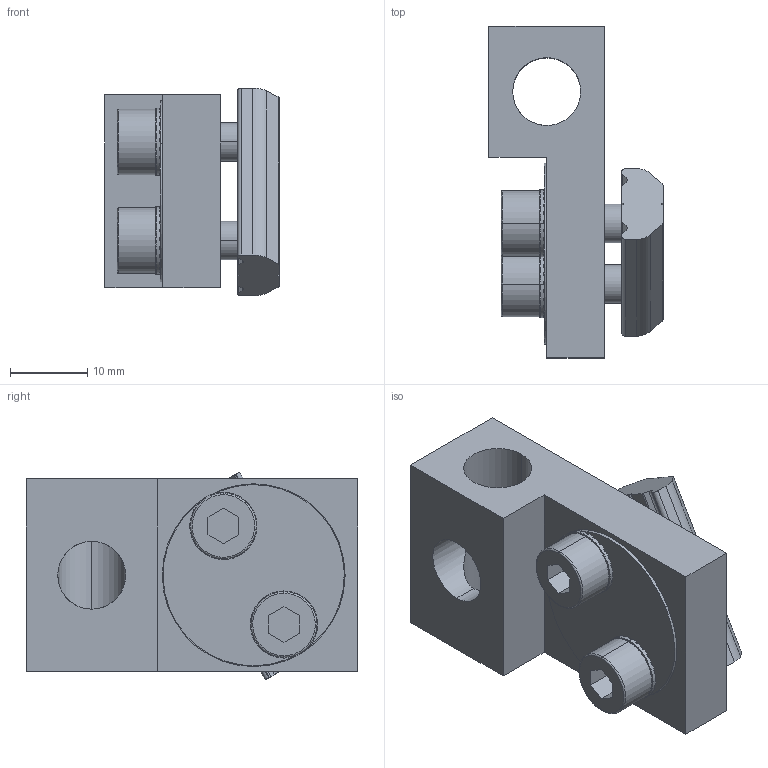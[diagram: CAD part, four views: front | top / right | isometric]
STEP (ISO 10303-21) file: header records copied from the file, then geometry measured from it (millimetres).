
FILE_DESCRIPTION (( 'STEP AP214' ), '1' );
FILE_NAME ('SVD-G18T.STEP', '2023-01-18T05:09:30', ( 'Windows User' ), ( 'P R C' ), 'SwSTEP 2.0', 'SolidWorks 2019', '' );
FILE_SCHEMA (( 'AUTOMOTIVE_DESIGN' ));
Length unit declared in the file: millimetre
Products named in the file (1): SVD-G18T
Bounding box: 22.6 x 43 x 26.95 mm (x, y, z)
Volume: 11376.4 mm3; surface area: 7948.7 mm2
Topology: 7 solids, 7 shells, 506 faces, 1465 edges, 970 vertices
Faces by surface type: plane 444, cylinder 54, cone 4, bspline 4
Entity records: 22777 total; most frequent: CARTESIAN_POINT 3416, ORIENTED_EDGE 2930, DIRECTION 2901, EDGE_CURVE 1465, AXIS2_PLACEMENT_3D 977, VERTEX_POINT 970, LINE 947, VECTOR 947
